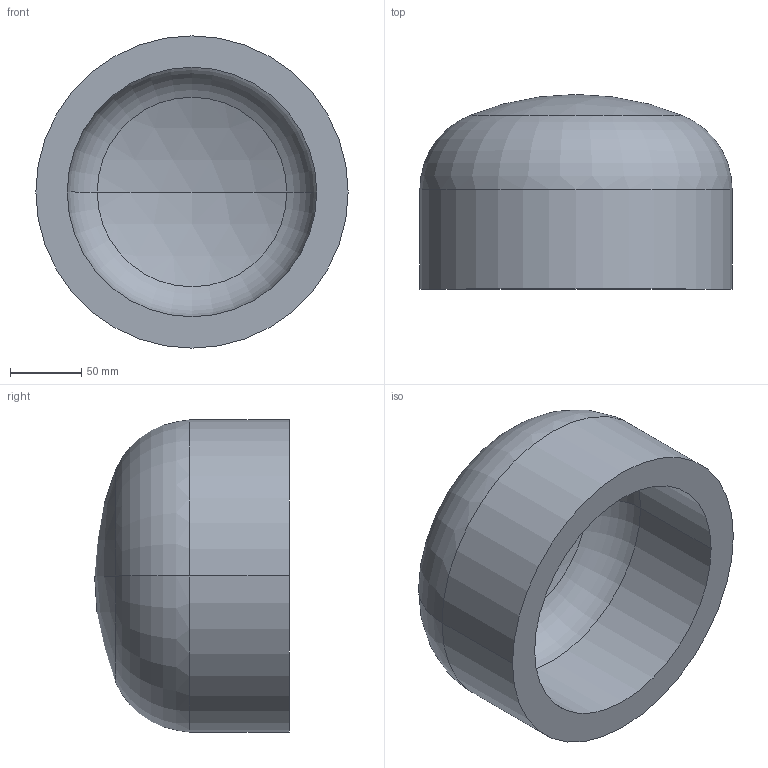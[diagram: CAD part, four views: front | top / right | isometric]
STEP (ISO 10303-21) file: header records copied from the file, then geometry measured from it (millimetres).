
FILE_DESCRIPTION (( 'STEP AP203' ), '1' );
FILE_NAME ('DIN 28013 Korbbogenform_-_Boden DIN 28013 - 219,1 x 70 - I - s=22.step', '2016-07-01T07:42:42', ( '' ), ( '' ), 'SwSTEP 2.0', 'SolidWorks 2013', '' );
FILE_SCHEMA (( 'CONFIG_CONTROL_DESIGN' ));
Length unit declared in the file: millimetre
Products named in the file (1): DIN 28013 Korbbogenform_-_Boden DIN 28013 - 219,1 x 70 - I - s=22
Bounding box: 219.1 x 136.56 x 219.1 mm (x, y, z)
Volume: 1969878.1 mm3; surface area: 193716.1 mm2
Topology: 1 solids, 1 shells, 13 faces, 24 edges, 14 vertices
Faces by surface type: torus 4, cylinder 4, sphere 4, plane 1
Entity records: 407 total; most frequent: DIRECTION 72, CARTESIAN_POINT 52, ORIENTED_EDGE 48, AXIS2_PLACEMENT_3D 34, EDGE_CURVE 24, CIRCLE 20, VERTEX_POINT 14, EDGE_LOOP 14
